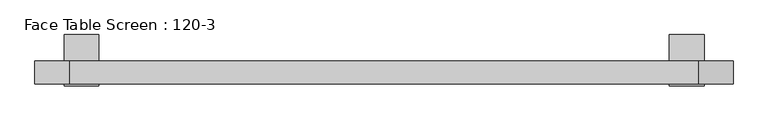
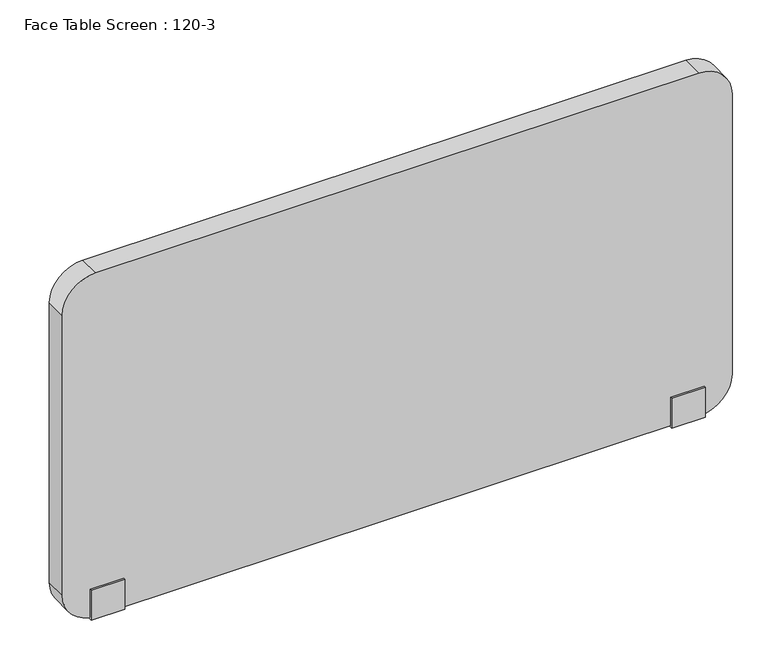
"""IFC4 building model written with IfcOpenShell, lengths in millimetres: furniture geometry, Face Table Screen : 120-3."""

from ifc_helpers import new_model, si_unit, point, frame, frame_2d, origin, place, context, project, spatial, polyline, circle_curve, trimmed, segment, composite_curve, outline, extrude, source, transform, mapped, element, save


def face_table_screen_120_3_c73d841a(model_context):
    return source(origin(), model_context, "Body", "SweptSolid", [
        extrude(outline(polyline([(-22.9999947, -256.0), (-22.9999997, -199.0433898), (-20.0, -199.0433898), (-20.0, -253.0), (20.0, -253.0), (20.0, -22.0), (65.0, -22.0), (65.0, -25.0433898), (23.0000062, -25.0433898), (22.9999947, -256.0), (-22.9999947, -256.0)])), frame((490.0, 0.0, 0.0), z_axis=(1.0, 0.0, 0.0), x_axis=(0.0, 1.0, 0.0)), (0.0, 0.0, 1.0), 60.0),
        extrude(outline(polyline([(-22.9999947, -256.0), (-22.9999997, -199.0433898), (-20.0, -199.0433898), (-20.0, -253.0), (20.0, -253.0), (20.0, -22.0), (65.0, -22.0), (65.0, -25.0433898), (23.0000062, -25.0433898), (22.9999947, -256.0), (-22.9999947, -256.0)])), frame((-550.0, 0.0, 0.0), z_axis=(1.0, 0.0, 0.0), x_axis=(0.0, 1.0, 0.0)), (0.0, 0.0, 1.0), 60.0),
        extrude(outline(composite_curve([segment(polyline([(397.0, 540.0), (397.0, -540.0)]), True, "CONTINUOUS"), segment(trimmed(circle_curve(frame_2d((337.0, -540.0)), 60.0), [point((397.0, -540.0))], [point((337.0, -600.0))], False, "CARTESIAN"), True, "CONTINUOUS"), segment(polyline([(337.0, -600.0), (-193.0, -600.0)]), True, "CONTINUOUS"), segment(trimmed(circle_curve(frame_2d((-193.0, -540.0)), 60.0), [point((-193.0, -600.0))], [point((-253.0, -540.0))], False, "CARTESIAN"), True, "CONTINUOUS"), segment(polyline([(-253.0, -540.0), (-253.0, 540.0)]), True, "CONTINUOUS"), segment(trimmed(circle_curve(frame_2d((-193.0, 540.0)), 60.0), [point((-253.0, 540.0))], [point((-193.0, 600.0))], False, "CARTESIAN"), True, "CONTINUOUS"), segment(polyline([(-193.0, 600.0), (337.0, 600.0)]), True, "CONTINUOUS"), segment(trimmed(circle_curve(frame_2d((337.0, 540.0)), 60.0), [point((337.0, 600.0))], [point((397.0, 540.0))], False, "CARTESIAN"), True, "CONTINUOUS")], self_intersect=False)), frame((0.0, -20.0, 0.0), z_axis=(0.0, 1.0, 0.0), x_axis=(0.0, 0.0, 1.0)), (0.0, 0.0, 1.0), 40.0),
    ])


if __name__ == "__main__":
    model = new_model("IFC4")
    model_context = context("Model", 3, world=origin())
    ifc_project = project(units=[si_unit("LENGTHUNIT", "METRE", prefix="MILLI")], contexts=[model_context])
    site = spatial("IfcSite", under=ifc_project)
    building = spatial("IfcBuilding", under=site)
    placement = place(None, origin())
    face_table_screen_120_3_shape = face_table_screen_120_3_c73d841a(model_context)
    element("IfcFurniture", 1, ObjectType="Face Table Screen : 120-3", at=placement, inside=building, context=model_context, shape_type="MappedRepresentation", body=[
        mapped(face_table_screen_120_3_shape, transform((0.0, 0.0, 0.0), x_axis=(1.0, 0.0, 0.0), y_axis=(0.0, 1.0, 0.0), z_axis=(0.0, 0.0, 1.0))),
    ])
    save(model, "model.ifc")
